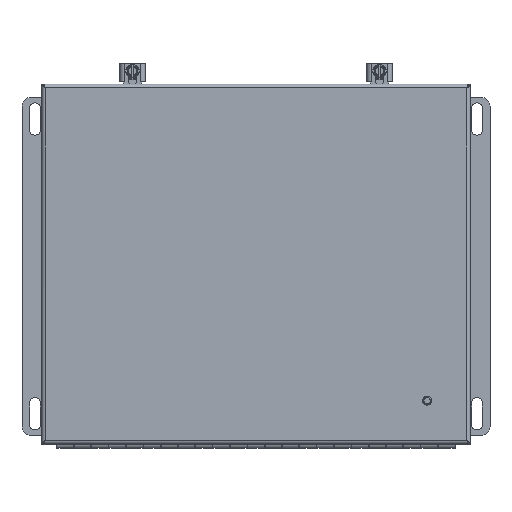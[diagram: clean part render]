
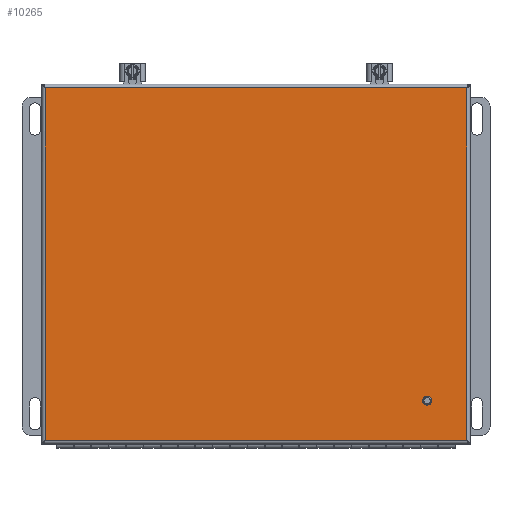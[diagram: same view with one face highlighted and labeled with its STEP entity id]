
A CAD part, top view. The second image highlights one B-rep face of the part: STEP entity #10265.
In plain terms, the highlighted planar face has unit normal (0, 0, 1) as drawn and (0, 0, -1) by its records, which use the part's own axes.
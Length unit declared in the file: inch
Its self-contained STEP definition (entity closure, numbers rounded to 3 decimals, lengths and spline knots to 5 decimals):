
#8734=DIRECTION('',(0.,-1.,0.));
#8735=VECTOR('',#8734,10.161);
#8736=CARTESIAN_POINT('',(12.263,-0.00827,0.));
#8737=LINE('',#8736,#8735);
#8769=CARTESIAN_POINT('',(1.25,-9.03127,0.));
#8770=DIRECTION('',(0.,0.,-1.));
#8771=DIRECTION('',(0.,-1.,0.));
#8772=AXIS2_PLACEMENT_3D('',#8769,#8770,#8771);
#8777=CARTESIAN_POINT('',(1.25,-9.03127,0.));
#8778=DIRECTION('',(0.,0.,-1.));
#8779=DIRECTION('',(0.,1.,0.));
#8780=AXIS2_PLACEMENT_3D('',#8777,#8778,#8779);
#9040=DIRECTION('',(1.,0.,0.));
#9041=VECTOR('',#9040,12.151);
#9042=CARTESIAN_POINT('',(0.112,-10.16927,0.));
#9043=LINE('',#9042,#9041);
#9096=DIRECTION('',(0.,-1.,0.));
#9097=VECTOR('',#9096,10.161);
#9098=CARTESIAN_POINT('',(0.112,-0.00827,0.));
#9099=LINE('',#9098,#9097);
#9300=DIRECTION('',(1.,0.,0.));
#9301=VECTOR('',#9300,12.151);
#9302=CARTESIAN_POINT('',(0.112,-0.00827,0.));
#9303=LINE('',#9302,#9301);
#9594=CARTESIAN_POINT('',(0.112,-0.00827,0.));
#9595=CARTESIAN_POINT('',(12.263,-0.00827,0.));
#9596=VERTEX_POINT('',#9594);
#9597=VERTEX_POINT('',#9595);
#9610=CARTESIAN_POINT('',(0.112,-10.16927,0.));
#9611=CARTESIAN_POINT('',(12.263,-10.16927,0.));
#9612=VERTEX_POINT('',#9610);
#9613=VERTEX_POINT('',#9611);
#9622=CARTESIAN_POINT('',(1.25,-9.12932,0.));
#9623=CARTESIAN_POINT('',(1.25,-8.93322,0.));
#9624=VERTEX_POINT('',#9622);
#9625=VERTEX_POINT('',#9623);
#10245=CARTESIAN_POINT('',(0.,0.10373,0.));
#10246=DIRECTION('',(0.,0.,-1.));
#10247=DIRECTION('',(1.,0.,0.));
#10248=AXIS2_PLACEMENT_3D('',#10245,#10246,#10247);
#10249=PLANE('',#10248);
#10250=ORIENTED_EDGE('',*,*,#10235,.F.);
#10252=ORIENTED_EDGE('',*,*,#10251,.F.);
#10254=ORIENTED_EDGE('',*,*,#10253,.T.);
#10256=ORIENTED_EDGE('',*,*,#10255,.T.);
#10257=EDGE_LOOP('',(#10250,#10252,#10254,#10256));
#10258=FACE_OUTER_BOUND('',#10257,.F.);
#10260=ORIENTED_EDGE('',*,*,#10259,.T.);
#10262=ORIENTED_EDGE('',*,*,#10261,.T.);
#10263=EDGE_LOOP('',(#10260,#10262));
#10264=FACE_BOUND('',#10263,.F.);
#8773=CIRCLE('',#8772,0.09805);
#8781=CIRCLE('',#8780,0.09805);
#10235=EDGE_CURVE('',#9597,#9613,#8737,.T.);
#10251=EDGE_CURVE('',#9596,#9597,#9303,.T.);
#10253=EDGE_CURVE('',#9596,#9612,#9099,.T.);
#10255=EDGE_CURVE('',#9612,#9613,#9043,.T.);
#10259=EDGE_CURVE('',#9624,#9625,#8773,.T.);
#10261=EDGE_CURVE('',#9625,#9624,#8781,.T.);
#10265=ADVANCED_FACE('',(#10258,#10264),#10249,.T.);
